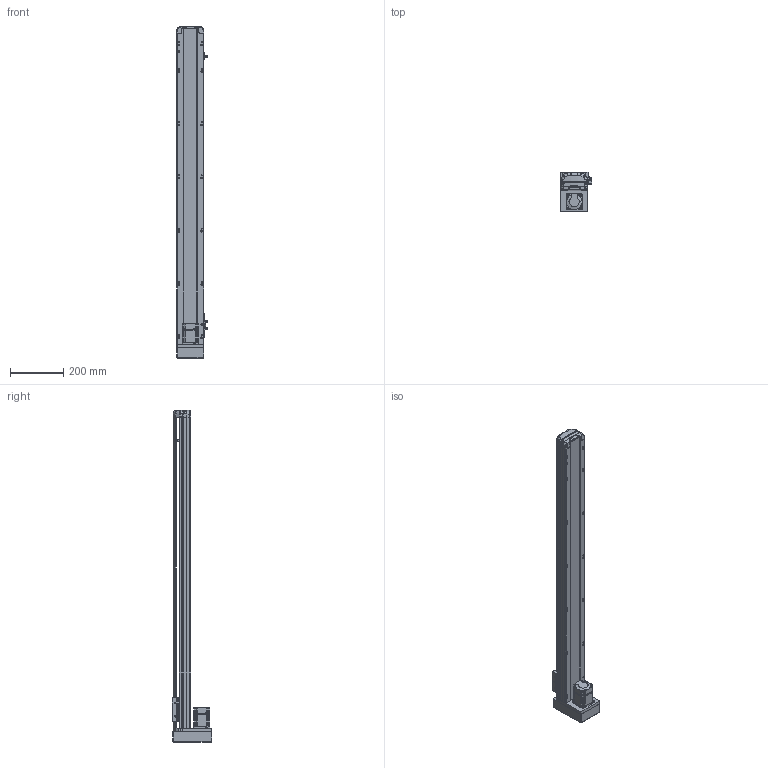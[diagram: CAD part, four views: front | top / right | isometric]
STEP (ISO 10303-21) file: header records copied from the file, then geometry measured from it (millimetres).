
FILE_DESCRIPTION (( 'STEP AP214' ), '1' );
FILE_NAME ('RTH10-XX-1000-M-M20-C4.STEP', '2025-10-25T04:53:25', ( 'Microsoft' ), ( 'Microsoft' ), 'SwSTEP 2.0', 'SolidWorks 2018', '' );
FILE_SCHEMA (( 'AUTOMOTIVE_DESIGN' ));
Length unit declared in the file: millimetre
Products named in the file (10): N_RTH12-M-008-萇儂啣^RTH10-XX-XX-M-M20-C4; N_OMRON EE-SX672 传感器^RTH10-XX-XX-M-M20-C4; N_RTH12-M-007P-奻裔^RTH10-XX-XX-M-M20-C4; N_RTH13-L-012覜茼え俋离^RTH10-XX-XX-M-M20-C4; N_200W-1^RTH10-XX-XX-M-M20-C4; RTH10-XX-1000-M-M20-C4; N_RTH12-M-011P-臏倰第菁釱^RTH10-XX-XX-M-M20-C4; N_RTH12-GY-001P^RTH10-XX-XX-M-M20-C4; N_RTH12-GY-004-賑釱^RTH10-XX-XX-M-M20-C4; N_RTH12-M-018-裔赽^RTH10-XX-XX-M-M20-C4
Assembly tree (11 placements, depth 2):
  RTH10-XX-1000-M-M20-C4
    N_RTH12-M-011P-臏倰第菁釱^RTH10-XX-XX-M-M20-C4
    N_RTH13-L-012覜茼え俋离^RTH10-XX-XX-M-M20-C4
    N_OMRON EE-SX672 传感器^RTH10-XX-XX-M-M20-C4  x3
    N_200W-1^RTH10-XX-XX-M-M20-C4
    N_RTH12-M-007P-奻裔^RTH10-XX-XX-M-M20-C4
    N_RTH12-M-008-萇儂啣^RTH10-XX-XX-M-M20-C4
    N_RTH12-M-018-裔赽^RTH10-XX-XX-M-M20-C4
    N_RTH12-GY-004-賑釱^RTH10-XX-XX-M-M20-C4
    N_RTH12-GY-001P^RTH10-XX-XX-M-M20-C4
Bounding box: 116.5 x 149 x 1247.31 mm (x, y, z)
Volume: 5541623.5 mm3; surface area: 818749.3 mm2
Topology: 10 solids, 12 shells, 2029 faces, 5680 edges, 3731 vertices
Faces by surface type: plane 999, cylinder 523, bspline 472, cone 29, sphere 4, torus 2
Entity records: 61574 total; most frequent: CARTESIAN_POINT 23875, ORIENTED_EDGE 8432, DIRECTION 6590, EDGE_CURVE 4222, VERTEX_POINT 2775, LINE 2250, VECTOR 2250, AXIS2_PLACEMENT_3D 2170
